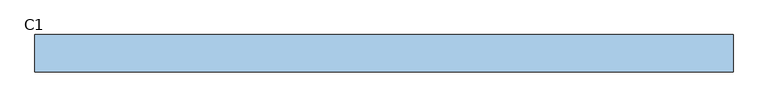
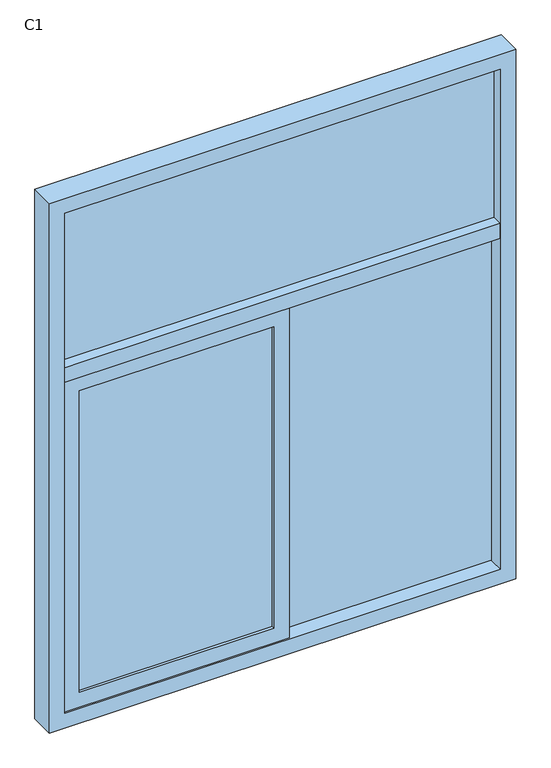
"""IFC4 building model written with IfcOpenShell, lengths in millimetres: window geometry, 组合窗 - 双层单列(固定+推拉) : C1."""

from ifc_helpers import new_model, si_unit, frame, origin, place, context, project, spatial, polyline, outline, extrude, source, transform, mapped, element, save


def c1_07d47191(model_context):
    return source(origin(), model_context, "Body", "SweptSolid", [
        extrude(outline(polyline([(700.0, 10.0), (-700.0, 10.0), (-700.0, 20.0), (700.0, 20.0), (700.0, 10.0)])), frame((0.0, 0.0, 2125.0), z_axis=(0.0, 0.0, 1.0), x_axis=(1.0, 0.0, 0.0)), (0.0, 0.0, 1.0), 525.0),
        extrude(outline(polyline([(-650.0, 0.0), (-25.0, 0.0), (-25.0, -10.0), (-650.0, -10.0), (-650.0, 0.0)])), frame((0.0, 0.0, 1000.0), z_axis=(0.0, 0.0, 1.0), x_axis=(1.0, 0.0, 0.0)), (0.0, 0.0, 1.0), 1025.0),
        extrude(outline(polyline([(25.0, 35.0), (700.0, 35.0), (700.0, 25.0), (25.0, 25.0), (25.0, 35.0)])), frame((0.0, 0.0, 950.0), z_axis=(0.0, 0.0, 1.0), x_axis=(1.0, 0.0, 0.0)), (0.0, 0.0, 1.0), 1125.0),
        extrude(outline(polyline([(25.0, 45.0), (25.0, 15.0), (-25.0, 15.0), (-25.0, 45.0), (25.0, 45.0)])), frame((0.0, 0.0, 950.0), z_axis=(0.0, 0.0, 1.0), x_axis=(1.0, 0.0, 0.0)), (0.0, 0.0, 1.0), 1125.0),
        extrude(outline(polyline([(2075.0, 25.0), (2075.0, -700.0), (950.0, -700.0), (950.0, 25.0), (2075.0, 25.0)]), holes=[polyline([(1000.0, -25.0), (1000.0, -650.0), (2025.0, -650.0), (2025.0, -25.0), (1000.0, -25.0)])]), frame((0.0, -20.0, 0.0), z_axis=(0.0, 1.0, 0.0), x_axis=(0.0, 0.0, 1.0)), (0.0, 0.0, 1.0), 30.0),
        extrude(outline(polyline([(-700.0, 55.0), (700.0, 55.0), (700.0, -25.0), (-700.0, -25.0), (-700.0, 55.0)])), frame((0.0, 0.0, 2075.0), z_axis=(0.0, 0.0, 1.0), x_axis=(1.0, 0.0, 0.0)), (0.0, 0.0, 1.0), 50.0),
        extrude(outline(polyline([(2700.0, -750.0), (900.0, -750.0), (900.0, 750.0), (2700.0, 750.0), (2700.0, -750.0)]), holes=[polyline([(2650.0, 700.0), (950.0, 700.0), (950.0, -700.0), (2650.0, -700.0), (2650.0, 700.0)])]), frame((0.0, -25.0, 0.0), z_axis=(0.0, 1.0, 0.0), x_axis=(0.0, 0.0, 1.0)), (0.0, 0.0, 1.0), 80.0),
    ])


if __name__ == "__main__":
    model = new_model("IFC4")
    model_context = context("Model", 3, world=origin())
    ifc_project = project(units=[si_unit("LENGTHUNIT", "METRE", prefix="MILLI")], contexts=[model_context])
    site = spatial("IfcSite", under=ifc_project)
    building = spatial("IfcBuilding", under=site)
    placement = place(None, origin())
    c1_shape = c1_07d47191(model_context)
    element("IfcWindow", 1, ObjectType="组合窗 - 双层单列(固定+推拉) : C1", at=placement, inside=building, context=model_context, shape_type="MappedRepresentation", body=[
        mapped(c1_shape, transform((0.0, 0.0, 0.0), x_axis=(1.0, 0.0, 0.0), y_axis=(0.0, 1.0, 0.0), z_axis=(0.0, 0.0, 1.0))),
    ])
    save(model, "model.ifc")
